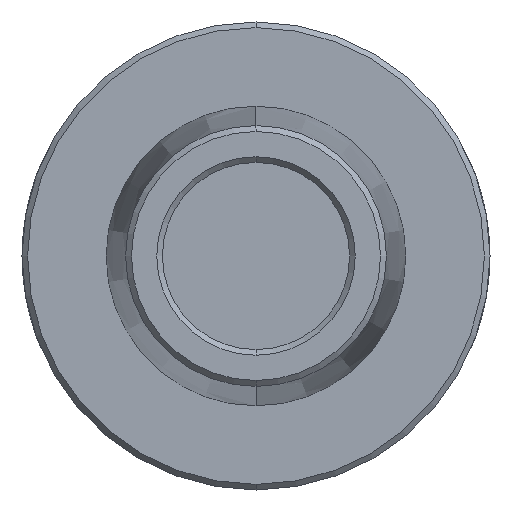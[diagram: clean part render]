
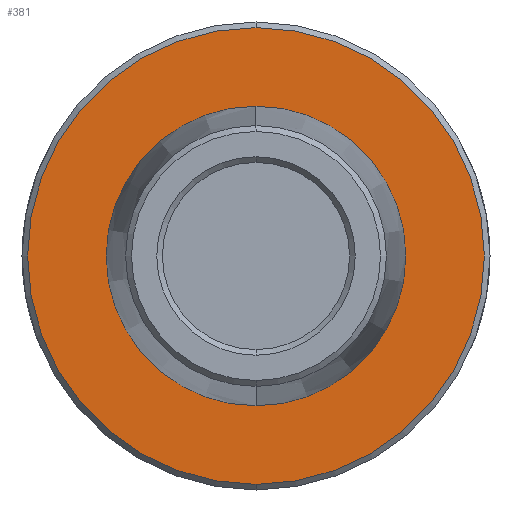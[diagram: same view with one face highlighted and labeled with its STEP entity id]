
A CAD part, front view. The second image highlights one B-rep face of the part: STEP entity #381.
In plain terms, the highlighted planar face has unit normal (0, -1, 0).
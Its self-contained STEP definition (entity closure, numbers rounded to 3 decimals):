
#21 = DIRECTION ( 'NONE',  ( 0., -1., 0. ) ) ;
#30 = DIRECTION ( 'NONE',  ( 0., 0., 1. ) ) ;
#80 = VERTEX_POINT ( 'NONE', #672 ) ;
#92 = CARTESIAN_POINT ( 'NONE',  ( 0., 0., 0. ) ) ;
#149 = DIRECTION ( 'NONE',  ( 0., -1., 0. ) ) ;
#155 = DIRECTION ( 'NONE',  ( 0., 0., 1. ) ) ;
#158 = CARTESIAN_POINT ( 'NONE',  ( 0., 0., -12.2 ) ) ;
#169 = AXIS2_PLACEMENT_3D ( 'NONE', #634, #388, #30 ) ;
#195 = EDGE_CURVE ( 'NONE', #80, #801, #701, .T. ) ;
#257 = AXIS2_PLACEMENT_3D ( 'NONE', #92, #149, #759 ) ;
#303 = CARTESIAN_POINT ( 'NONE',  ( 0., 0., 0. ) ) ;
#305 = CARTESIAN_POINT ( 'NONE',  ( 0., 0., 0. ) ) ;
#319 = ORIENTED_EDGE ( 'NONE', *, *, #957, .F. ) ;
#348 = EDGE_LOOP ( 'NONE', ( #666, #956 ) ) ;
#358 = EDGE_CURVE ( 'NONE', #503, #459, #639, .T. ) ;
#381 = ADVANCED_FACE ( 'NONE', ( #686, #524 ), #667, .F. ) ;
#382 = CARTESIAN_POINT ( 'NONE',  ( 0., 0., 12.2 ) ) ;
#388 = DIRECTION ( 'NONE',  ( 0., -1., 0. ) ) ;
#421 = EDGE_CURVE ( 'NONE', #459, #503, #961, .T. ) ;
#437 = AXIS2_PLACEMENT_3D ( 'NONE', #305, #850, #551 ) ;
#450 = CARTESIAN_POINT ( 'NONE',  ( 0., 0., -8. ) ) ;
#459 = VERTEX_POINT ( 'NONE', #382 ) ;
#503 = VERTEX_POINT ( 'NONE', #158 ) ;
#524 = FACE_BOUND ( 'NONE', #930, .T. ) ;
#551 = DIRECTION ( 'NONE',  ( 0., 0., 1. ) ) ;
#634 = CARTESIAN_POINT ( 'NONE',  ( 0., 0., 0. ) ) ;
#639 = CIRCLE ( 'NONE', #257, 12.2 ) ;
#666 = ORIENTED_EDGE ( 'NONE', *, *, #421, .T. ) ;
#667 = PLANE ( 'NONE',  #437 ) ;
#672 = CARTESIAN_POINT ( 'NONE',  ( 0., 0., 8. ) ) ;
#686 = FACE_OUTER_BOUND ( 'NONE', #348, .T. ) ;
#701 = CIRCLE ( 'NONE', #169, 8. ) ;
#708 = DIRECTION ( 'NONE',  ( 0., 0., 1. ) ) ;
#724 = AXIS2_PLACEMENT_3D ( 'NONE', #864, #21, #708 ) ;
#739 = ORIENTED_EDGE ( 'NONE', *, *, #195, .F. ) ;
#759 = DIRECTION ( 'NONE',  ( 0., 0., 1. ) ) ;
#801 = VERTEX_POINT ( 'NONE', #450 ) ;
#850 = DIRECTION ( 'NONE',  ( 0., 1., 0. ) ) ;
#864 = CARTESIAN_POINT ( 'NONE',  ( 0., 0., 0. ) ) ;
#917 = DIRECTION ( 'NONE',  ( 0., -1., 0. ) ) ;
#929 = AXIS2_PLACEMENT_3D ( 'NONE', #303, #917, #155 ) ;
#930 = EDGE_LOOP ( 'NONE', ( #319, #739 ) ) ;
#956 = ORIENTED_EDGE ( 'NONE', *, *, #358, .T. ) ;
#957 = EDGE_CURVE ( 'NONE', #801, #80, #988, .T. ) ;
#961 = CIRCLE ( 'NONE', #724, 12.2 ) ;
#988 = CIRCLE ( 'NONE', #929, 8. ) ;
